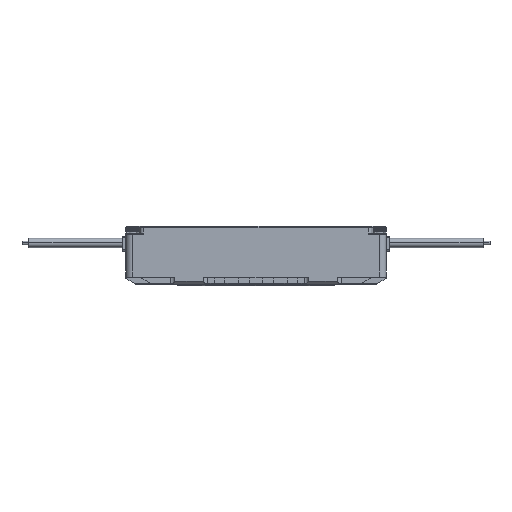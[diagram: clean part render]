
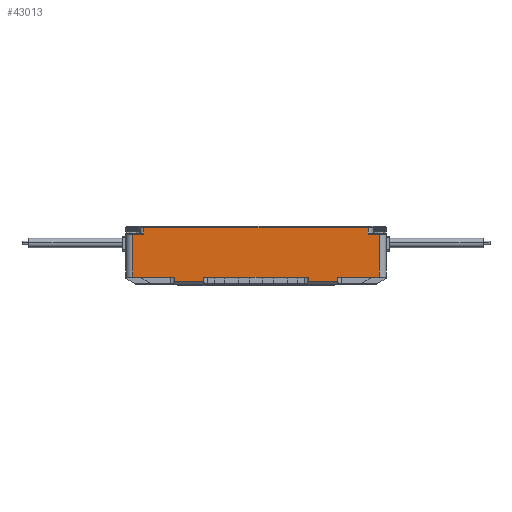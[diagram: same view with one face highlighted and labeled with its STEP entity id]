
A CAD part, left-side view. The second image highlights one B-rep face of the part: STEP entity #43013.
In plain terms, the highlighted planar face has unit normal (-1, 0, 0).
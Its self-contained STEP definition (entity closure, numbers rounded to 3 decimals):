
#568=DIRECTION('',(0.,0.,-1.));
#569=VECTOR('',#568,18.6);
#570=CARTESIAN_POINT('',(-28.,110.012,4.));
#571=LINE('',#570,#569);
#576=DIRECTION('',(0.,-1.,0.));
#577=VECTOR('',#576,4.8);
#578=CARTESIAN_POINT('',(-28.,110.012,4.));
#579=LINE('',#578,#577);
#580=DIRECTION('',(0.,-1.,0.));
#581=VECTOR('',#580,97.412);
#582=CARTESIAN_POINT('',(-28.,105.212,7.));
#583=LINE('',#582,#581);
#584=DIRECTION('',(0.,-1.,0.));
#585=VECTOR('',#584,4.806);
#586=CARTESIAN_POINT('',(-28.,7.8,4.));
#587=LINE('',#586,#585);
#592=DIRECTION('',(0.,0.,1.));
#593=VECTOR('',#592,18.6);
#594=CARTESIAN_POINT('',(-28.,2.994,-14.6));
#595=LINE('',#594,#593);
#3500=CARTESIAN_POINT('',(-28.,21.252,-16.4));
#3526=CARTESIAN_POINT('',(-28.,33.752,-16.4));
#3528=DIRECTION('',(0.,-1.,0.));
#3529=VECTOR('',#3528,12.5);
#3530=CARTESIAN_POINT('',(-28.,33.752,-16.4));
#3531=LINE('',#3530,#3529);
#3532=DIRECTION('',(0.,0.,1.));
#3533=VECTOR('',#3532,1.8);
#3534=CARTESIAN_POINT('',(-28.,21.252,-16.4));
#3535=LINE('',#3534,#3533);
#3541=DIRECTION('',(0.,-1.,0.));
#3542=VECTOR('',#3541,18.259);
#3543=CARTESIAN_POINT('',(-28.,21.252,-14.6));
#3544=LINE('',#3543,#3542);
#15043=DIRECTION('',(0.,-1.,0.));
#15044=VECTOR('',#15043,18.26);
#15045=CARTESIAN_POINT('',(-28.,110.012,-14.6));
#15046=LINE('',#15045,#15044);
#15072=DIRECTION('',(0.,0.,-1.));
#15073=VECTOR('',#15072,1.8);
#15074=CARTESIAN_POINT('',(-28.,91.752,-14.6));
#15075=LINE('',#15074,#15073);
#15104=DIRECTION('',(0.,-1.,0.));
#15105=VECTOR('',#15104,12.5);
#15106=CARTESIAN_POINT('',(-28.,91.752,-16.4));
#15107=LINE('',#15106,#15105);
#15108=DIRECTION('',(0.,0.,1.));
#15109=VECTOR('',#15108,1.8);
#15110=CARTESIAN_POINT('',(-28.,79.252,-16.4));
#15111=LINE('',#15110,#15109);
#15112=DIRECTION('',(0.,-1.,0.));
#15113=VECTOR('',#15112,45.5);
#15114=CARTESIAN_POINT('',(-28.,79.252,-14.6));
#15115=LINE('',#15114,#15113);
#15126=DIRECTION('',(0.,0.,-1.));
#15127=VECTOR('',#15126,1.8);
#15128=CARTESIAN_POINT('',(-28.,33.752,-14.6));
#15129=LINE('',#15128,#15127);
#23515=DIRECTION('',(0.,0.,1.));
#23516=VECTOR('',#23515,3.);
#23517=CARTESIAN_POINT('',(-28.,7.8,
4.));
#23518=LINE('',#23517,#23516);
#23606=DIRECTION('',(0.,0.,-1.));
#23607=VECTOR('',#23606,3.);
#23608=CARTESIAN_POINT('',(-28.,105.212,
7.));
#23609=LINE('',#23608,#23607);
#34611=CARTESIAN_POINT('',(-28.,110.012,
4.));
#34612=CARTESIAN_POINT('',(-28.,105.212,
4.));
#34613=VERTEX_POINT('',#34611);
#34614=VERTEX_POINT('',#34612);
#34615=CARTESIAN_POINT('',(-28.,7.8,
4.));
#34616=CARTESIAN_POINT('',(-28.,2.994,
4.));
#34617=VERTEX_POINT('',#34615);
#34618=VERTEX_POINT('',#34616);
#34619=CARTESIAN_POINT('',(-28.,105.212,
7.));
#34620=VERTEX_POINT('',#34619);
#34621=CARTESIAN_POINT('',(-28.,7.8,
7.));
#34622=VERTEX_POINT('',#34621);
#37025=VERTEX_POINT('',#3500);
#37027=VERTEX_POINT('',#3526);
#37028=CARTESIAN_POINT('',(-28.,21.252,-14.6));
#37029=VERTEX_POINT('',#37028);
#37032=CARTESIAN_POINT('',(-28.,33.752,-14.6));
#37033=VERTEX_POINT('',#37032);
#37034=CARTESIAN_POINT('',(-28.,79.252,-14.6));
#37035=VERTEX_POINT('',#37034);
#37036=CARTESIAN_POINT('',(-28.,79.252,-16.4));
#37037=VERTEX_POINT('',#37036);
#37038=CARTESIAN_POINT('',(-28.,91.752,-16.4));
#37039=VERTEX_POINT('',#37038);
#37040=CARTESIAN_POINT('',(-28.,91.752,-14.6));
#37041=VERTEX_POINT('',#37040);
#37042=CARTESIAN_POINT('',(-28.,110.012,-14.6));
#37043=VERTEX_POINT('',#37042);
#37044=CARTESIAN_POINT('',(-28.,2.994,-14.6));
#37045=VERTEX_POINT('',#37044);
#42975=CARTESIAN_POINT('',(-28.,-0.006,6.5));
#42976=DIRECTION('',(1.,0.,0.));
#42977=DIRECTION('',(0.,0.,-1.));
#42978=AXIS2_PLACEMENT_3D('',#42975,#42976,#42977);
#42979=PLANE('',#42978);
#42981=ORIENTED_EDGE('',*,*,#42980,.F.);
#42983=ORIENTED_EDGE('',*,*,#42982,.F.);
#42985=ORIENTED_EDGE('',*,*,#42984,.F.);
#42987=ORIENTED_EDGE('',*,*,#42986,.F.);
#42989=ORIENTED_EDGE('',*,*,#42988,.F.);
#42991=ORIENTED_EDGE('',*,*,#42990,.F.);
#42993=ORIENTED_EDGE('',*,*,#42992,.F.);
#42995=ORIENTED_EDGE('',*,*,#42994,.F.);
#42997=ORIENTED_EDGE('',*,*,#42996,.F.);
#42999=ORIENTED_EDGE('',*,*,#42998,.F.);
#43000=ORIENTED_EDGE('',*,*,#42965,.F.);
#43002=ORIENTED_EDGE('',*,*,#43001,.T.);
#43004=ORIENTED_EDGE('',*,*,#43003,.F.);
#43006=ORIENTED_EDGE('',*,*,#43005,.T.);
#43008=ORIENTED_EDGE('',*,*,#43007,.F.);
#43010=ORIENTED_EDGE('',*,*,#43009,.T.);
#43011=EDGE_LOOP('',(#42981,#42983,#42985,#42987,#42989,#42991,#42993,#42995,
#42997,#42999,#43000,#43002,#43004,#43006,#43008,#43010));
#43012=FACE_OUTER_BOUND('',#43011,.F.);
#43013=ADVANCED_FACE('',(#43012),#42979,.F.);
#42965=EDGE_CURVE('',#34613,#37043,#571,.T.);
#42980=EDGE_CURVE('',#37045,#34618,#595,.T.);
#42982=EDGE_CURVE('',#37029,#37045,#3544,.T.);
#42984=EDGE_CURVE('',#37025,#37029,#3535,.T.);
#42986=EDGE_CURVE('',#37027,#37025,#3531,.T.);
#42988=EDGE_CURVE('',#37033,#37027,#15129,.T.);
#42990=EDGE_CURVE('',#37035,#37033,#15115,.T.);
#42992=EDGE_CURVE('',#37037,#37035,#15111,.T.);
#42994=EDGE_CURVE('',#37039,#37037,#15107,.T.);
#42996=EDGE_CURVE('',#37041,#37039,#15075,.T.);
#42998=EDGE_CURVE('',#37043,#37041,#15046,.T.);
#43001=EDGE_CURVE('',#34613,#34614,#579,.T.);
#43003=EDGE_CURVE('',#34620,#34614,#23609,.T.);
#43005=EDGE_CURVE('',#34620,#34622,#583,.T.);
#43007=EDGE_CURVE('',#34617,#34622,#23518,.T.);
#43009=EDGE_CURVE('',#34617,#34618,#587,.T.);
